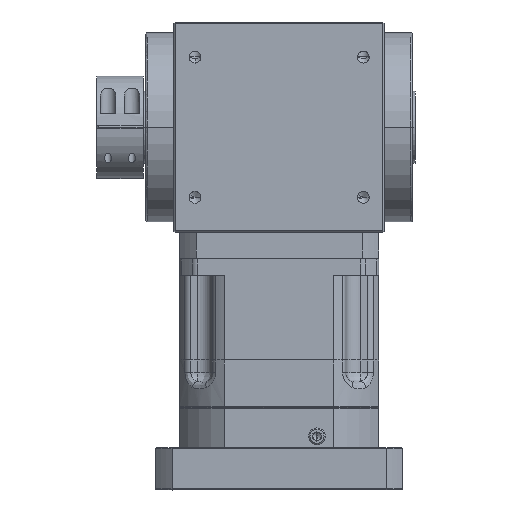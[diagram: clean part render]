
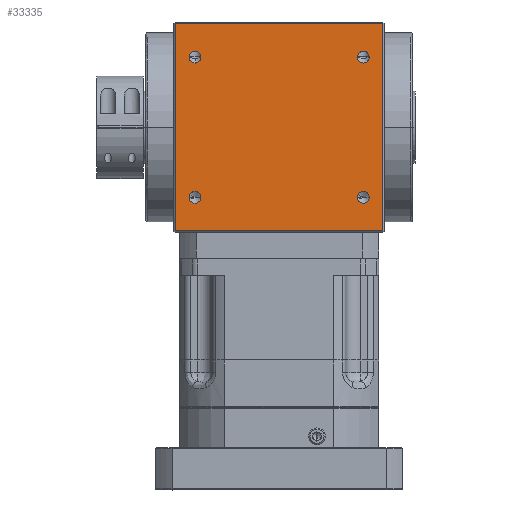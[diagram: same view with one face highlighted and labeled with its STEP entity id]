
A CAD part, top view. The second image highlights one B-rep face of the part: STEP entity #33335.
In plain terms, the highlighted planar face has unit normal (0, 0, 1).
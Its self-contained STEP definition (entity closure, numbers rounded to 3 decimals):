
#898 = CARTESIAN_POINT ( 'NONE',  ( 55.75, -50., 75. ) ) ;
#950 = DIRECTION ( 'NONE',  ( 0., 0., -1. ) ) ;
#2016 = VERTEX_POINT ( 'NONE', #24376 ) ;
#3120 = ORIENTED_EDGE ( 'NONE', *, *, #59274, .T. ) ;
#3204 = CARTESIAN_POINT ( 'NONE',  ( 74., -74., 75. ) ) ;
#3915 = PLANE ( 'NONE',  #21773 ) ;
#4954 = CARTESIAN_POINT ( 'NONE',  ( 60., 50., 75. ) ) ;
#5581 = DIRECTION ( 'NONE',  ( 0., 0., -1. ) ) ;
#6085 = ORIENTED_EDGE ( 'NONE', *, *, #26601, .F. ) ;
#6286 = CARTESIAN_POINT ( 'NONE',  ( 74., -74., 75. ) ) ;
#6446 = DIRECTION ( 'NONE',  ( 0., 0., 1. ) ) ;
#6998 = AXIS2_PLACEMENT_3D ( 'NONE', #83239, #34612, #91367 ) ;
#7188 = DIRECTION ( 'NONE',  ( -1., 0., 0. ) ) ;
#7195 = VERTEX_POINT ( 'NONE', #74152 ) ;
#7886 = FACE_BOUND ( 'NONE', #75206, .T. ) ;
#8099 = LINE ( 'NONE', #70844, #12915 ) ;
#8526 = CIRCLE ( 'NONE', #43707, 4.25 ) ;
#8552 = VERTEX_POINT ( 'NONE', #38624 ) ;
#9058 = AXIS2_PLACEMENT_3D ( 'NONE', #55355, #6446, #63523 ) ;
#9129 = VERTEX_POINT ( 'NONE', #90003 ) ;
#9168 = CARTESIAN_POINT ( 'NONE',  ( 74., 74., 75. ) ) ;
#9247 = FACE_BOUND ( 'NONE', #25691, .T. ) ;
#9340 = LINE ( 'NONE', #9168, #9992 ) ;
#9992 = VECTOR ( 'NONE', #74387, 1000. ) ;
#10095 = EDGE_LOOP ( 'NONE', ( #52114, #60171, #12315, #103860 ) ) ;
#10192 = DIRECTION ( 'NONE',  ( 0., 0., 1. ) ) ;
#10291 = AXIS2_PLACEMENT_3D ( 'NONE', #59032, #10192, #67231 ) ;
#12315 = ORIENTED_EDGE ( 'NONE', *, *, #44900, .F. ) ;
#12915 = VECTOR ( 'NONE', #30300, 1000. ) ;
#13223 = DIRECTION ( 'NONE',  ( 1., 0., 0. ) ) ;
#14553 = DIRECTION ( 'NONE',  ( -1., 0., 0. ) ) ;
#14910 = CARTESIAN_POINT ( 'NONE',  ( 64.25, 50., 75. ) ) ;
#16605 = LINE ( 'NONE', #80357, #72458 ) ;
#18139 = CARTESIAN_POINT ( 'NONE',  ( 60., 50., 75. ) ) ;
#21773 = AXIS2_PLACEMENT_3D ( 'NONE', #3204, #5581, #7188 ) ;
#24376 = CARTESIAN_POINT ( 'NONE',  ( -74., 74., 75. ) ) ;
#25650 = VERTEX_POINT ( 'NONE', #101298 ) ;
#25691 = EDGE_LOOP ( 'NONE', ( #48593, #3120 ) ) ;
#26395 = DIRECTION ( 'NONE',  ( 1., 0., 0. ) ) ;
#26601 = EDGE_CURVE ( 'NONE', #99468, #9129, #86373, .T. ) ;
#27076 = ORIENTED_EDGE ( 'NONE', *, *, #46764, .T. ) ;
#27266 = CIRCLE ( 'NONE', #95337, 4.25 ) ;
#29213 = ORIENTED_EDGE ( 'NONE', *, *, #46464, .F. ) ;
#29915 = LINE ( 'NONE', #6286, #86938 ) ;
#30300 = DIRECTION ( 'NONE',  ( 0., -1., 0. ) ) ;
#31540 = CIRCLE ( 'NONE', #10291, 4.25 ) ;
#31739 = DIRECTION ( 'NONE',  ( 0., 1., 0. ) ) ;
#33310 = CARTESIAN_POINT ( 'NONE',  ( -60., -50., 75. ) ) ;
#33335 = ADVANCED_FACE ( 'NONE', ( #84386, #103011, #9247, #7886, #69528 ), #3915, .F. ) ;
#33798 = CARTESIAN_POINT ( 'NONE',  ( 74., 74., 75. ) ) ;
#34612 = DIRECTION ( 'NONE',  ( 0., 0., -1. ) ) ;
#35392 = VERTEX_POINT ( 'NONE', #51017 ) ;
#36769 = DIRECTION ( 'NONE',  ( 1., 0., 0. ) ) ;
#36791 = DIRECTION ( 'NONE',  ( 0., 0., 1. ) ) ;
#36895 = CARTESIAN_POINT ( 'NONE',  ( 60., -50., 75. ) ) ;
#37139 = AXIS2_PLACEMENT_3D ( 'NONE', #18139, #75049, #26395 ) ;
#38063 = CIRCLE ( 'NONE', #37139, 4.25 ) ;
#38139 = ORIENTED_EDGE ( 'NONE', *, *, #59576, .T. ) ;
#38624 = CARTESIAN_POINT ( 'NONE',  ( -74., -74., 75. ) ) ;
#38964 = EDGE_CURVE ( 'NONE', #35392, #7195, #27266, .T. ) ;
#42221 = CIRCLE ( 'NONE', #46210, 4.25 ) ;
#43707 = AXIS2_PLACEMENT_3D ( 'NONE', #49884, #950, #58055 ) ;
#44251 = CIRCLE ( 'NONE', #9058, 4.25 ) ;
#44900 = EDGE_CURVE ( 'NONE', #89009, #8552, #29915, .T. ) ;
#46146 = EDGE_CURVE ( 'NONE', #85036, #89009, #8099, .T. ) ;
#46210 = AXIS2_PLACEMENT_3D ( 'NONE', #4954, #62025, #13223 ) ;
#46464 = EDGE_CURVE ( 'NONE', #7195, #35392, #31540, .T. ) ;
#46581 = EDGE_CURVE ( 'NONE', #9129, #99468, #44251, .T. ) ;
#46764 = EDGE_CURVE ( 'NONE', #79537, #79901, #67822, .T. ) ;
#47406 = ORIENTED_EDGE ( 'NONE', *, *, #38964, .F. ) ;
#48332 = EDGE_CURVE ( 'NONE', #8552, #2016, #16605, .T. ) ;
#48593 = ORIENTED_EDGE ( 'NONE', *, *, #86887, .T. ) ;
#49884 = CARTESIAN_POINT ( 'NONE',  ( -60., 50., 75. ) ) ;
#51017 = CARTESIAN_POINT ( 'NONE',  ( -64.25, -50., 75. ) ) ;
#52114 = ORIENTED_EDGE ( 'NONE', *, *, #59590, .T. ) ;
#55355 = CARTESIAN_POINT ( 'NONE',  ( 60., -50., 75. ) ) ;
#58055 = DIRECTION ( 'NONE',  ( 1., 0., 0. ) ) ;
#58781 = ORIENTED_EDGE ( 'NONE', *, *, #46581, .F. ) ;
#59032 = CARTESIAN_POINT ( 'NONE',  ( -60., -50., 75. ) ) ;
#59274 = EDGE_CURVE ( 'NONE', #25650, #93990, #42221, .T. ) ;
#59576 = EDGE_CURVE ( 'NONE', #79901, #79537, #8526, .T. ) ;
#59590 = EDGE_CURVE ( 'NONE', #85036, #2016, #9340, .T. ) ;
#60171 = ORIENTED_EDGE ( 'NONE', *, *, #48332, .F. ) ;
#62025 = DIRECTION ( 'NONE',  ( 0., 0., -1. ) ) ;
#63523 = DIRECTION ( 'NONE',  ( 1., 0., 0. ) ) ;
#67231 = DIRECTION ( 'NONE',  ( 1., 0., 0. ) ) ;
#67822 = CIRCLE ( 'NONE', #6998, 4.25 ) ;
#69528 = FACE_OUTER_BOUND ( 'NONE', #10095, .T. ) ;
#70844 = CARTESIAN_POINT ( 'NONE',  ( 74., -74., 75. ) ) ;
#72125 = DIRECTION ( 'NONE',  ( 0., 0., 1. ) ) ;
#72458 = VECTOR ( 'NONE', #31739, 1000. ) ;
#74152 = CARTESIAN_POINT ( 'NONE',  ( -55.75, -50., 75. ) ) ;
#74387 = DIRECTION ( 'NONE',  ( -1., 0., 0. ) ) ;
#75049 = DIRECTION ( 'NONE',  ( 0., 0., -1. ) ) ;
#75206 = EDGE_LOOP ( 'NONE', ( #27076, #38139 ) ) ;
#79537 = VERTEX_POINT ( 'NONE', #88158 ) ;
#79901 = VERTEX_POINT ( 'NONE', #102983 ) ;
#80357 = CARTESIAN_POINT ( 'NONE',  ( -74., -74., 75. ) ) ;
#80752 = CARTESIAN_POINT ( 'NONE',  ( 74., -74., 75. ) ) ;
#83239 = CARTESIAN_POINT ( 'NONE',  ( -60., 50., 75. ) ) ;
#84386 = FACE_BOUND ( 'NONE', #87354, .T. ) ;
#85036 = VERTEX_POINT ( 'NONE', #33798 ) ;
#86373 = CIRCLE ( 'NONE', #93439, 4.25 ) ;
#86887 = EDGE_CURVE ( 'NONE', #93990, #25650, #38063, .T. ) ;
#86938 = VECTOR ( 'NONE', #14553, 1000. ) ;
#87354 = EDGE_LOOP ( 'NONE', ( #58781, #6085 ) ) ;
#88158 = CARTESIAN_POINT ( 'NONE',  ( -55.75, 50., 75. ) ) ;
#89009 = VERTEX_POINT ( 'NONE', #80752 ) ;
#90003 = CARTESIAN_POINT ( 'NONE',  ( 64.25, -50., 75. ) ) ;
#91367 = DIRECTION ( 'NONE',  ( 1., 0., 0. ) ) ;
#93439 = AXIS2_PLACEMENT_3D ( 'NONE', #36895, #36791, #36769 ) ;
#93990 = VERTEX_POINT ( 'NONE', #14910 ) ;
#95337 = AXIS2_PLACEMENT_3D ( 'NONE', #33310, #72125, #99752 ) ;
#99468 = VERTEX_POINT ( 'NONE', #898 ) ;
#99752 = DIRECTION ( 'NONE',  ( 1., 0., 0. ) ) ;
#101298 = CARTESIAN_POINT ( 'NONE',  ( 55.75, 50., 75. ) ) ;
#102417 = EDGE_LOOP ( 'NONE', ( #29213, #47406 ) ) ;
#102983 = CARTESIAN_POINT ( 'NONE',  ( -64.25, 50., 75. ) ) ;
#103011 = FACE_BOUND ( 'NONE', #102417, .T. ) ;
#103860 = ORIENTED_EDGE ( 'NONE', *, *, #46146, .F. ) ;
